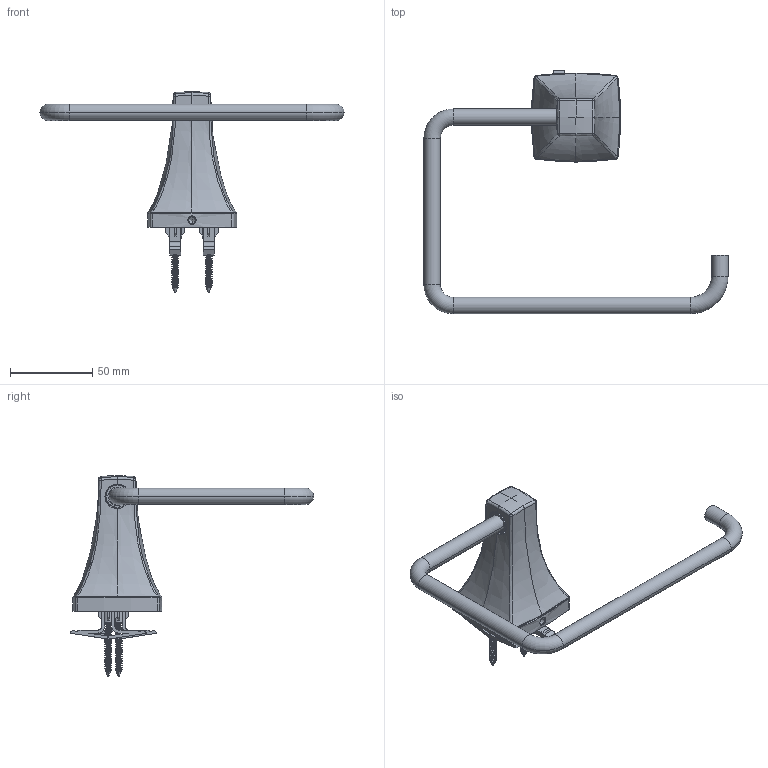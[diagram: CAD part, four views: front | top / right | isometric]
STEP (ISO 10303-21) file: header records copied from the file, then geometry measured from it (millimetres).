
FILE_DESCRIPTION (( 'STEP AP214' ), '1' );
FILE_NAME ('563TR_1.STEP', '2025-01-02T05:32:18', ( '' ), ( '' ), 'SwSTEP 2.0', 'SolidWorks 2023', '' );
FILE_SCHEMA (( 'AUTOMOTIVE_DESIGN' ));
Length unit declared in the file: inch
Products named in the file (1): 563TR_1
Bounding box: 184.65 x 147.9 x 122.05 mm (x, y, z)
Surface area: 36255.4 mm2 (no closed solid volume)
Topology: 0 solids, 11 shells, 449 faces, 1481 edges, 997 vertices
Faces by surface type: cylinder 155, plane 131, bspline 83, torus 42, cone 20, sphere 18
Entity records: 35097 total; most frequent: CARTESIAN_POINT 23706, ORIENTED_EDGE 2507, DIRECTION 1902, EDGE_CURVE 1465, VERTEX_POINT 997, AXIS2_PLACEMENT_3D 695, B_SPLINE_CURVE_WITH_KNOTS 625, VECTOR 512
